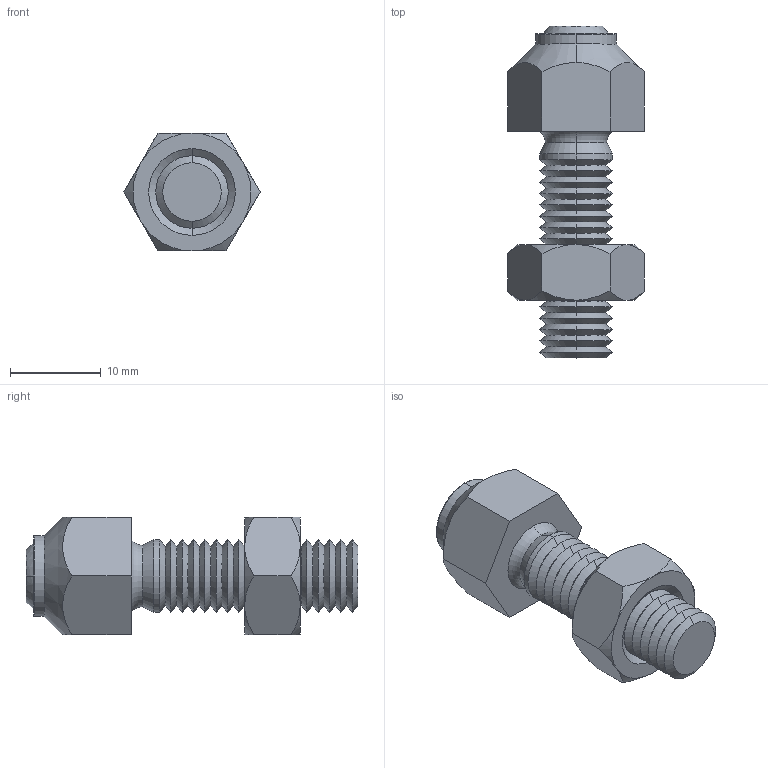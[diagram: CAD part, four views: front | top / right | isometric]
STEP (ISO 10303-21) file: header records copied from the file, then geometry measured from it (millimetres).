
FILE_DESCRIPTION (( 'STEP AP203' ), '1' );
FILE_NAME ('34120.W0013.step', '2017-03-27T09:19:29', ( 'User' ), ( '' ), 'SwSTEP 2.0', 'SolidWorks 2009', '' );
FILE_SCHEMA (( 'CONFIG_CONTROL_DESIGN' ));
Length unit declared in the file: millimetre
Products named in the file (4): Part3_34120.W0013; 34120.W0013; Part1_34120.W0013; Part2_34120.W0013
Assembly tree (3 placements, depth 2):
  34120.W0013
    Part3_34120.W0013
    Part1_34120.W0013
    Part2_34120.W0013
Bounding box: 15.01 x 36.6 x 13 mm (x, y, z)
Volume: 2986.1 mm3; surface area: 2477 mm2
Topology: 3 solids, 3 shells, 130 faces, 280 edges, 154 vertices
Faces by surface type: cone 90, plane 20, torus 8, cylinder 8, sphere 4
Entity records: 3966 total; most frequent: CARTESIAN_POINT 786, DIRECTION 644, ORIENTED_EDGE 540, EDGE_CURVE 270, AXIS2_PLACEMENT_3D 270, VERTEX_POINT 148, EDGE_LOOP 134, CIRCLE 134
